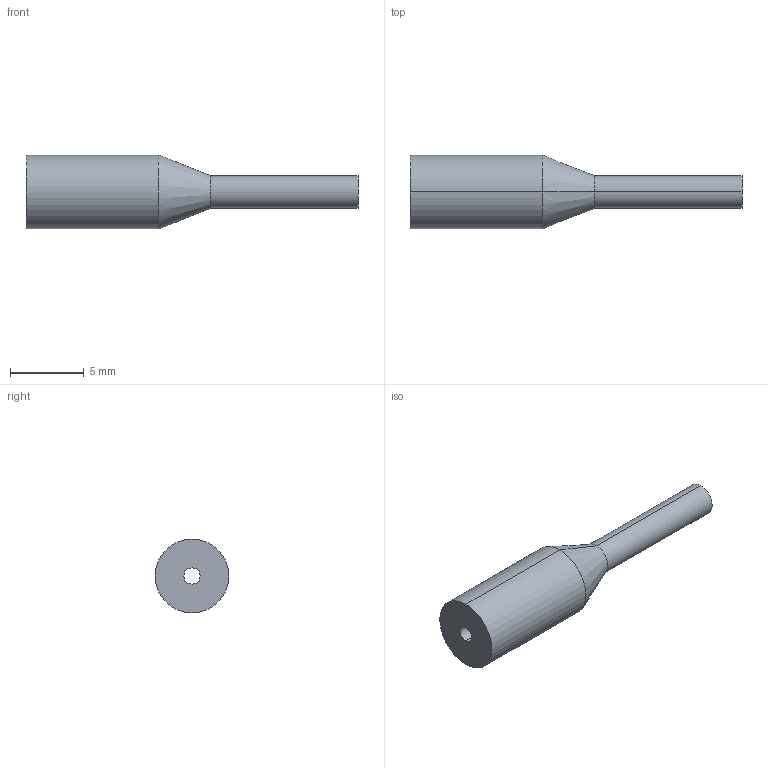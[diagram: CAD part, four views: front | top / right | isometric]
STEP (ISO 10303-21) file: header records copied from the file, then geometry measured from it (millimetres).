
FILE_DESCRIPTION (( 'STEP AP203' ), '1' );
FILE_NAME ('FX-AT10.STEP', '2005-09-08T04:12:29', ( '' ), ( '' ), 'SwSTEP 2.0', 'SolidWorks 2004073', '' );
FILE_SCHEMA (( 'CONFIG_CONTROL_DESIGN' ));
Length unit declared in the file: millimetre
Products named in the file (1): FX-AT10
Bounding box: 22.5 x 5 x 5 mm (x, y, z)
Volume: 230.8 mm3; surface area: 352.4 mm2
Topology: 1 solids, 1 shells, 10 faces, 20 edges, 12 vertices
Faces by surface type: cylinder 6, plane 2, cone 2
Entity records: 345 total; most frequent: DIRECTION 54, CARTESIAN_POINT 43, ORIENTED_EDGE 40, AXIS2_PLACEMENT_3D 23, EDGE_CURVE 20, EDGE_LOOP 12, VERTEX_POINT 12, CIRCLE 12
